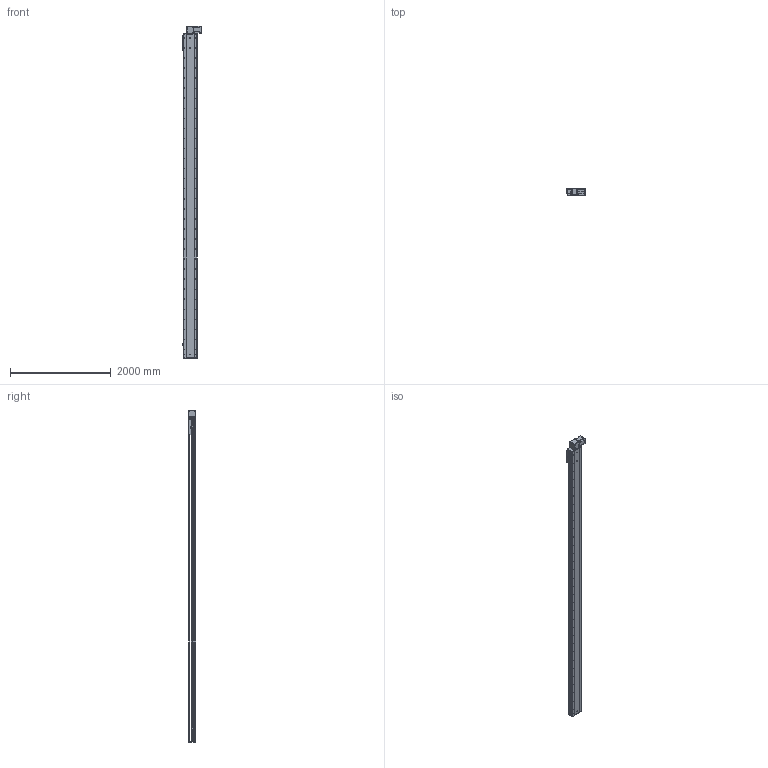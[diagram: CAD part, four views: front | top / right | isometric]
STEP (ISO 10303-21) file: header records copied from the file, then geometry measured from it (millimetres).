
FILE_DESCRIPTION (( 'STEP AP214' ), '1' );
FILE_NAME ('RTB28S-XX-6000-BL-M100-XX-C4.STEP', '2025-12-22T02:59:35', ( '' ), ( '' ), 'SwSTEP 2.0', 'SolidWorks 2018', '' );
FILE_SCHEMA (( 'AUTOMOTIVE_DESIGN' ));
Length unit declared in the file: millimetre
Products named in the file (4): RTB28S-GY-004^RTB28S-XX-XX-BL-M100-XX-C4; RTB28S-XX-6000-BL-M100-XX-C4; RTB28S-GY-011^RTB28S-XX-XX-BL-M100-XX-C4; RTB28S-GY-008^RTB28S-XX-XX-BL-M100-XX-C4
Assembly tree (3 placements, depth 2):
  RTB28S-XX-6000-BL-M100-XX-C4
    RTB28S-GY-011^RTB28S-XX-XX-BL-M100-XX-C4
    RTB28S-GY-004^RTB28S-XX-XX-BL-M100-XX-C4
    RTB28S-GY-008^RTB28S-XX-XX-BL-M100-XX-C4
Bounding box: 380.7 x 145 x 6607 mm (x, y, z)
Volume: 108352896 mm3; surface area: 9967304.5 mm2
Topology: 3 solids, 4 shells, 1038 faces, 2838 edges, 1828 vertices
Faces by surface type: cylinder 559, plane 395, cone 80, torus 4
Entity records: 41663 total; most frequent: CARTESIAN_POINT 8752, DIRECTION 6072, ORIENTED_EDGE 5612, EDGE_CURVE 2806, AXIS2_PLACEMENT_3D 2296, VERTEX_POINT 1828, VECTOR 1480, LINE 1480
